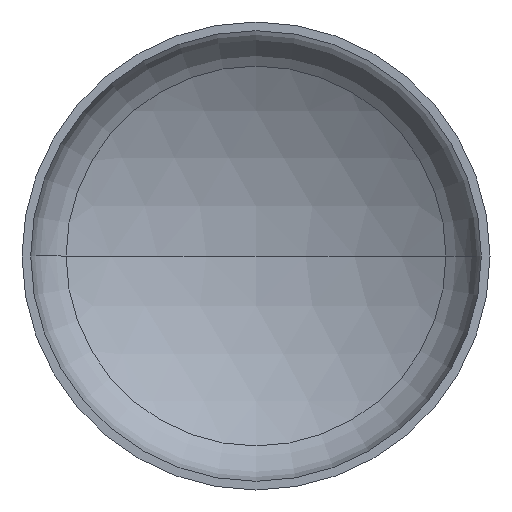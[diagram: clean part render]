
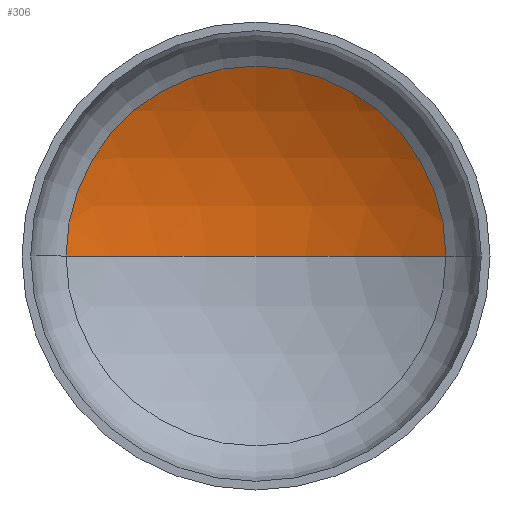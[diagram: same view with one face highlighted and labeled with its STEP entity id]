
A CAD part, front view. The second image highlights one B-rep face of the part: STEP entity #306.
In plain terms, the highlighted spherical face has radius 1200 mm.
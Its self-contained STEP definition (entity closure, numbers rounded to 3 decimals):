
#7 = AXIS2_PLACEMENT_3D ( 'NONE', #202, #398, #228 ) ;
#10 = AXIS2_PLACEMENT_3D ( 'NONE', #175, #395, #274 ) ;
#30 = AXIS2_PLACEMENT_3D ( 'NONE', #132, #328, #169 ) ;
#37 = AXIS2_PLACEMENT_3D ( 'NONE', #296, #130, #327 ) ;
#72 = EDGE_CURVE ( 'NONE', #94, #264, #351, .T. ) ;
#79 = CARTESIAN_POINT ( 'NONE',  ( 0., 449.036, 0. ) ) ;
#94 = VERTEX_POINT ( 'NONE', #218 ) ;
#97 = EDGE_CURVE ( 'NONE', #254, #94, #122, .T. ) ;
#122 = CIRCLE ( 'NONE', #30, 1200. ) ;
#130 = DIRECTION ( 'NONE',  ( 0., -1., 0. ) ) ;
#132 = CARTESIAN_POINT ( 'NONE',  ( 0., -750.964, 0. ) ) ;
#169 = DIRECTION ( 'NONE',  ( -1., 0., 0. ) ) ;
#175 = CARTESIAN_POINT ( 'NONE',  ( 0., -750.964, 0. ) ) ;
#183 = ORIENTED_EDGE ( 'NONE', *, *, #321, .F. ) ;
#202 = CARTESIAN_POINT ( 'NONE',  ( 0., -750.964, 0. ) ) ;
#218 = CARTESIAN_POINT ( 'NONE',  ( 608.66, 283.218, 0. ) ) ;
#228 = DIRECTION ( 'NONE',  ( 1., 0., 0. ) ) ;
#235 = CIRCLE ( 'NONE', #7, 1200. ) ;
#242 = SPHERICAL_SURFACE ( 'NONE', #10, 1200. ) ;
#254 = VERTEX_POINT ( 'NONE', #79 ) ;
#264 = VERTEX_POINT ( 'NONE', #302 ) ;
#274 = DIRECTION ( 'NONE',  ( -1., 0., 0. ) ) ;
#296 = CARTESIAN_POINT ( 'NONE',  ( 0., 283.218, 0. ) ) ;
#302 = CARTESIAN_POINT ( 'NONE',  ( -608.66, 283.218, 0. ) ) ;
#306 = ADVANCED_FACE ( 'NONE', ( #337 ), #242, .F. ) ;
#316 = ORIENTED_EDGE ( 'NONE', *, *, #97, .T. ) ;
#321 = EDGE_CURVE ( 'NONE', #254, #264, #235, .T. ) ;
#327 = DIRECTION ( 'NONE',  ( 1., 0., 0. ) ) ;
#328 = DIRECTION ( 'NONE',  ( 0., 0., -1. ) ) ;
#337 = FACE_OUTER_BOUND ( 'NONE', #365, .T. ) ;
#338 = ORIENTED_EDGE ( 'NONE', *, *, #72, .T. ) ;
#351 = CIRCLE ( 'NONE', #37, 608.66 ) ;
#365 = EDGE_LOOP ( 'NONE', ( #183, #316, #338 ) ) ;
#395 = DIRECTION ( 'NONE',  ( 0., 0., -1. ) ) ;
#398 = DIRECTION ( 'NONE',  ( 0., 0., 1. ) ) ;
